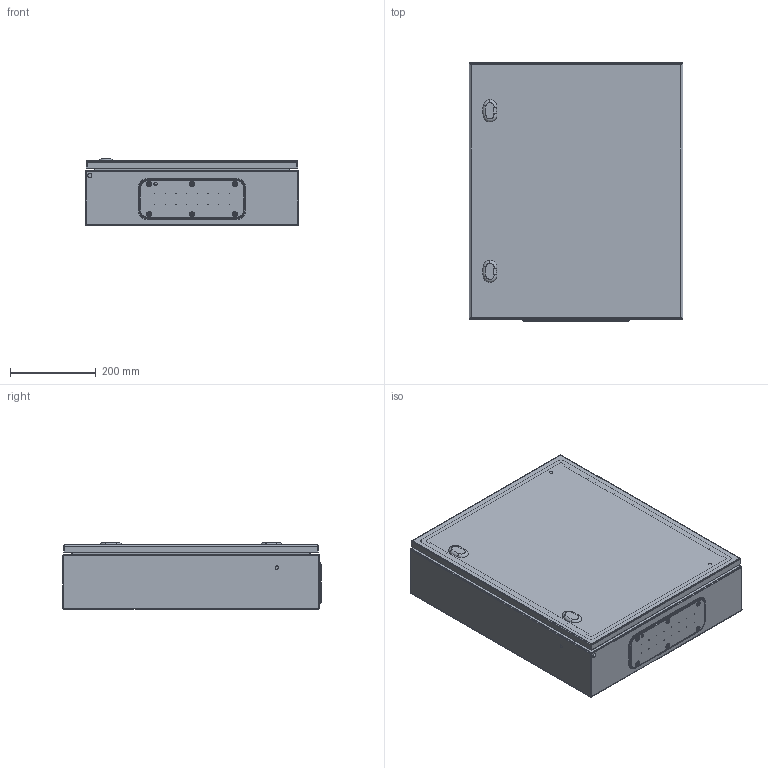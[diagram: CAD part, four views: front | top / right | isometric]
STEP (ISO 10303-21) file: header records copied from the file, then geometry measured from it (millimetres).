
FILE_DESCRIPTION (( 'STEP AP203' ), '1' );
FILE_NAME ('0500x0600x0150 dx.step', '2021-09-07T06:41:04', ( '' ), ( '' ), 'SwSTEP 2.0', 'SolidWorks 2021', '' );
FILE_SCHEMA (( 'CONFIG_CONTROL_DESIGN' ));
Length unit declared in the file: millimetre
Products named in the file (7): AR_ECOR_montaggio_porta_singola_0500x0600; AR_ECOR_Piastra_12; AR_ECOR_flangia IC_02; AR_ECOR_involucro_0500x0600x0150; 0500x0600x0150 dx; AR_ECOR_chiusura_std_STD; AR_ECOR_porta_singola_0500x0600
Assembly tree (7 placements, depth 3):
  0500x0600x0150 dx
    AR_ECOR_involucro_0500x0600x0150
    AR_ECOR_montaggio_porta_singola_0500x0600
      AR_ECOR_porta_singola_0500x0600
      AR_ECOR_chiusura_std_STD  x2
    AR_ECOR_flangia IC_02
    AR_ECOR_Piastra_12
Bounding box: 500 x 604 x 155 mm (x, y, z)
Volume: 2000400.1 mm3; surface area: 2574850.5 mm2
Topology: 6 solids, 6 shells, 649 faces, 1637 edges, 1026 vertices
Faces by surface type: cylinder 323, plane 196, cone 48, torus 38, bspline 28, sphere 16
Entity records: 20859 total; most frequent: CARTESIAN_POINT 4433, DIRECTION 3447, ORIENTED_EDGE 3156, EDGE_CURVE 1578, AXIS2_PLACEMENT_3D 1349, VERTEX_POINT 1000, EDGE_LOOP 828, VECTOR 749
